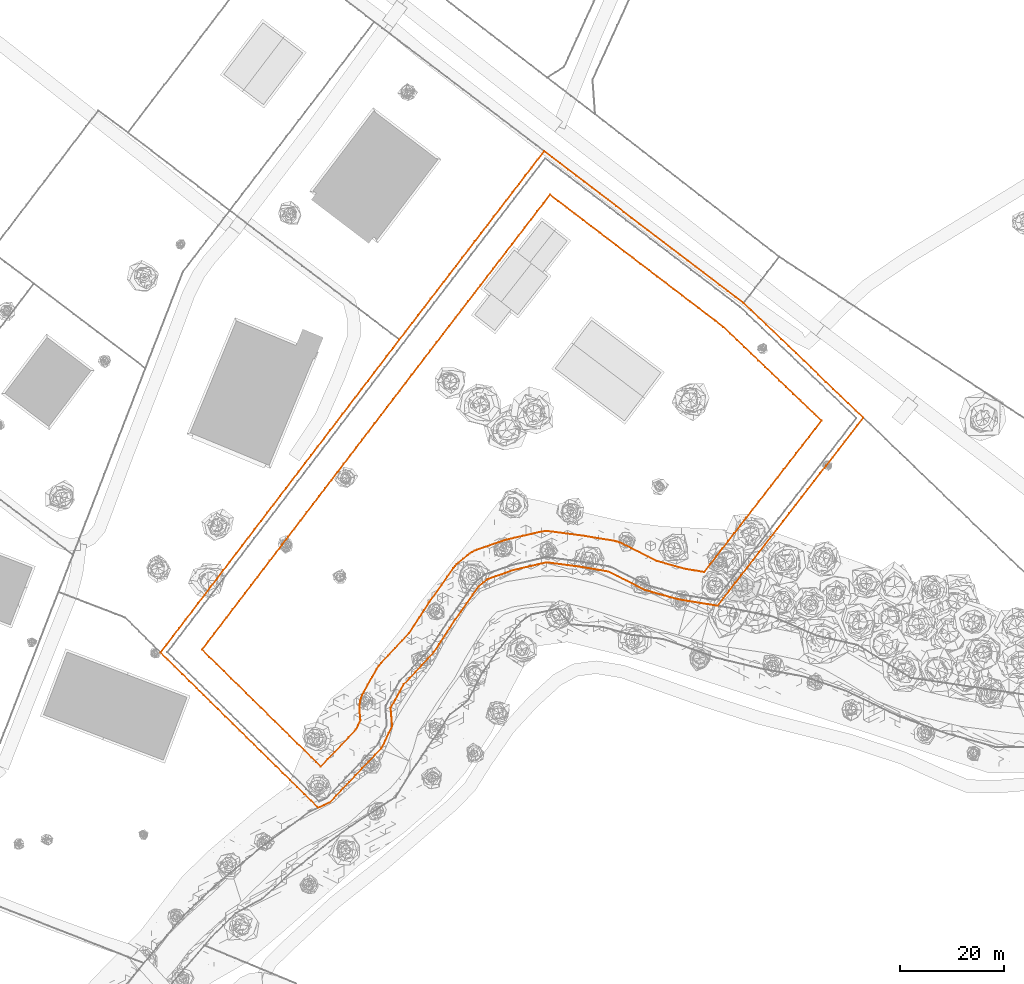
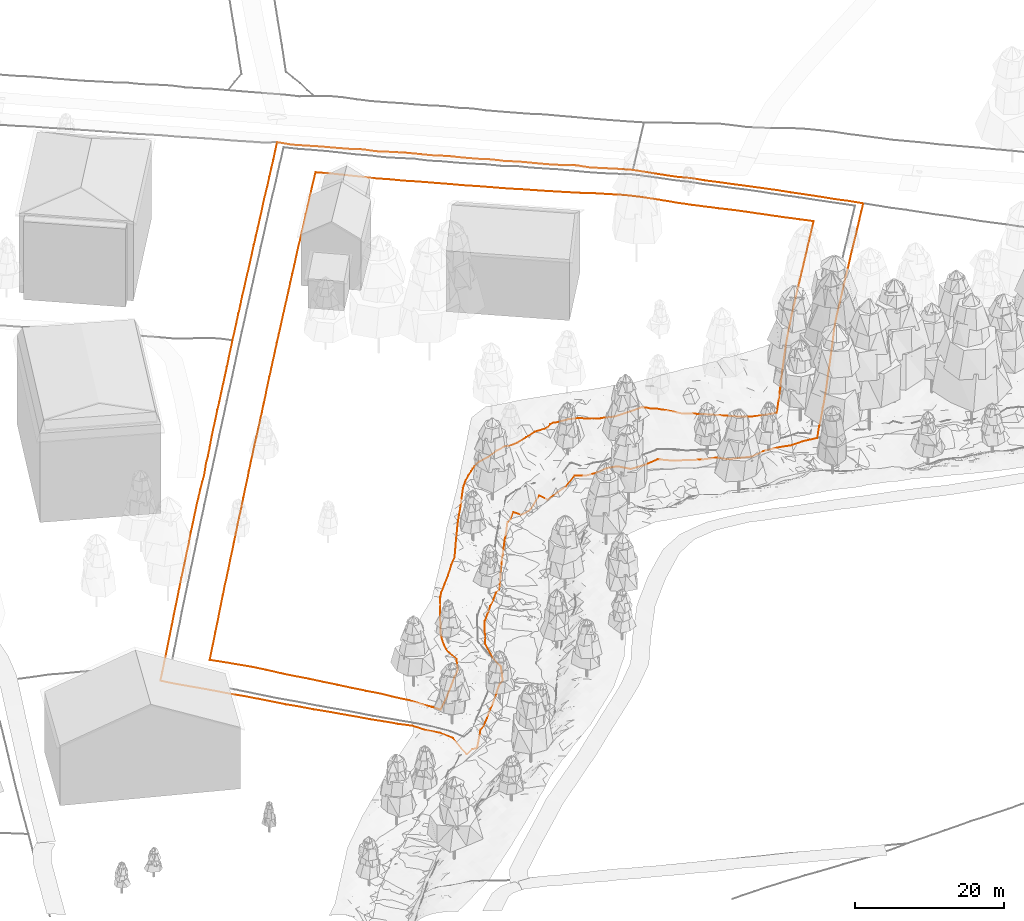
# Not in any storey, part 14 of 88: 2 geographic elements.
"""IFC4 model written with IfcOpenShell, lengths in metres."""

from ifc_helpers import new_model, entity, si_unit, origin_with_axes, place, context, subcontext, project, spatial, element, save


model = new_model("IFC4")

# Units and contexts
model_context = context("Model", 3, precision=1e-05, world=origin_with_axes())
body_context = subcontext(model_context, "Body", "Model", "MODEL_VIEW")
ifc_project = project(units=[si_unit("LENGTHUNIT", "METRE"), si_unit("AREAUNIT", "SQUARE_METRE"), si_unit("VOLUMEUNIT", "CUBIC_METRE"), si_unit("PLANEANGLEUNIT", "RADIAN")], contexts=[model_context])

# Sites
site_1_placement = place(None, origin_with_axes())
site_1 = spatial("IfcSite", under=ifc_project, at=site_1_placement, Name="CH907857693633", CompositionType="ELEMENT")
site_2_placement = place(None, origin_with_axes())
site_2 = spatial("IfcSite", under=site_1, at=site_2_placement, Name="Parcels", CompositionType="ELEMENT")

# Geographic element
geographic_element_1_placement = place(None, origin_with_axes())
element("IfcGeographicElement", 1, at=geographic_element_1_placement, inside=site_2, Name="Parcel_CH907857693633", ObjectType="PARCEL", PredefinedType="USERDEFINED", context=body_context, shape_type="Curve3D", body=[
    entity("IfcIndexedPolyCurve", entity("IfcCartesianPointList3D", [[186.954514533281, 126.636146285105, 8.74311523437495], [185.769047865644, 125.10627961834, 8.7719848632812], [184.583581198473, 123.576412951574, 8.77521972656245], [183.398114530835, 122.046546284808, 8.75922851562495], [182.212647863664, 120.516679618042, 8.70124511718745], [181.027181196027, 118.986812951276, 8.7741821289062], [179.841714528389, 117.45694628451, 8.84296874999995], [178.656247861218, 115.927079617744, 8.76826171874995], [177.47078119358, 114.397212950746, 8.7402465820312], [176.285314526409, 112.86734628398, 8.7750366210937], [175.099847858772, 111.337479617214, 8.75617675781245], [173.914381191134, 109.807612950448, 8.70808105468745], [172.728914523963, 108.277746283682, 8.6737182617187], [171.543447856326, 106.747879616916, 8.66047363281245], [170.357981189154, 105.21801295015, 8.62873535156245], [169.172514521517, 103.688146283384, 8.09907226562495], [168.032292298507, 102.216479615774, 6.92988281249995], [166.892070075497, 100.744812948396, 5.7978637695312], [165.751847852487, 99.273146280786, 5.1098754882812], [164.611625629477, 97.8014796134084, 3.99726562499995], [163.471403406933, 96.329812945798, 3.48774414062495], [162.331181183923, 94.8581462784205, 3.0072143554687], [161.190958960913, 93.3864796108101, 2.6038940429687], [160.050736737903, 91.9148129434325, 2.67280273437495], [158.910514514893, 90.4431462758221, 2.00043945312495], [157.00951451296, 90.7546462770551, 1.98005371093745], [155.108514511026, 91.0661462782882, 1.7456176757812], [153.207514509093, 91.3776462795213, 1.85981445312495], [151.30651450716, 91.6891462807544, 1.7606323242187], [149.724014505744, 92.1318962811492, 1.13007812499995], [148.141514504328, 92.5746462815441, 1.21381835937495], [146.559014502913, 93.0173962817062, 1.26191406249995], [144.976514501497, 93.4601462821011, 1.83454589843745], [143.209264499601, 94.3543962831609, 1.5665405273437], [141.442014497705, 95.2486462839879, 1.5672729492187], [139.674764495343, 96.1428962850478, 1.5522583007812], [137.907514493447, 97.0371462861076, 1.8573120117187], [135.999847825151, 97.3534796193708, 1.38142089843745], [134.092181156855, 97.6698129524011, 1.2193725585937], [132.184514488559, 97.9861462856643, 2.12971191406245], [130.650014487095, 98.188896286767, 2.24189453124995], [129.115514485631, 98.3916462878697, 1.85883789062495], [127.581014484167, 98.5943962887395, 1.82905273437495], [126.046514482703, 98.7971462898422, 2.2684448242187], [124.455514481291, 98.4296462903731, 1.23884277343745], [122.864514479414, 98.0621462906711, 0.968334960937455], [121.273514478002, 97.6946462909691, 0.673413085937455], [119.68251447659, 97.3271462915, 2.0927856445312], [118.009181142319, 96.7481462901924, 0.717297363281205], [116.335847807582, 96.1691462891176, 0.824108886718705], [114.662514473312, 95.5901462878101, 2.1939819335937], [113.821014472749, 94.8866462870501, 1.69367675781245], [112.979514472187, 94.1831462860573, 2.00898437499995], [111.836014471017, 92.5728962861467, 1.54743652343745], [110.692514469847, 90.9626462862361, 1.9008911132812], [109.549014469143, 89.3523962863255, 1.4798706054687], [108.405514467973, 87.7421462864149, 1.5462768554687], [107.390764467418, 86.1853962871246, 1.38422851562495], [106.376014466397, 84.6286462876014, 0.907177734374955], [105.361264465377, 83.0718962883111, 1.23322753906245], [104.346514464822, 81.5151462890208, 1.5810668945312], [103.188514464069, 80.2793462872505, 2.34052734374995], [102.030514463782, 79.0435462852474, 2.19465332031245], [100.87251446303, 77.8077462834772, 2.39252929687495], [99.714514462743, 76.5719462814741, 2.34125976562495], [98.5565144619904, 75.3361462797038, 2.20270996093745], [97.7151811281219, 73.8351462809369, 2.0771606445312], [96.8738477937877, 72.3341462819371, 1.8770874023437], [96.0325144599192, 70.8331462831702, 2.12324218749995], [96.1785144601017, 69.0736462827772, 0.893505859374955], [96.3245144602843, 67.3141462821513, 0.622265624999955], [95.660181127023, 65.9228129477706, 1.47285156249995], [94.9958477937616, 64.5314796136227, 1.40839843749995], [94.3315144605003, 63.1401462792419, 1.3875854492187], [93.0791394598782, 61.8262712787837, 2.0389526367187], [91.8267644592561, 60.5123962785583, 1.78889160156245], [90.574389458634, 59.1985212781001, 1.42377929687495], [89.3220144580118, 57.8846462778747, 1.55451660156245], [88.0696394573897, 56.5707712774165, 1.3802612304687], [86.8172644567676, 55.2568962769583, 1.37678222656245], [85.5648894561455, 53.9430212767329, 1.92292480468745], [84.3125144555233, 52.6291462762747, 0.207287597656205], [83.1925144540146, 52.1116462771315, 0.659558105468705], [82.0725144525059, 51.5941462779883, 0.550610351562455], [80.7192644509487, 52.9258962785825, 2.8881958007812], [79.3660144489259, 54.2576462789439, 3.4161499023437], [78.0127644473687, 55.5893962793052, 3.5207641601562], [76.6595144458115, 56.9211462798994, 3.8908813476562], [75.2756255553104, 58.2828129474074, 3.8681762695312], [73.8917366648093, 59.6444796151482, 3.92634277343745], [72.5078477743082, 61.0061462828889, 3.9375122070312], [71.1239588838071, 62.3678129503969, 4.0316284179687], [69.740069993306, 63.7294796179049, 4.0837524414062], [68.3561811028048, 65.0911462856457, 4.1617553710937], [66.9722922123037, 66.4528129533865, 4.18867187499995], [65.5884033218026, 67.8144796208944, 4.28437499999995], [64.2045144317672, 69.1761462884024, 4.34138183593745], [62.8206255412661, 70.5378129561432, 4.4569213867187], [61.4367366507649, 71.899479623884, 4.56403808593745], [60.0528477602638, 73.2611462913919, 4.6648071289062], [58.6689588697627, 74.6228129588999, 4.70612792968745], [57.2850699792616, 75.9844796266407, 4.8083618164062], [55.9011810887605, 77.3461462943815, 4.8762329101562], [54.5172921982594, 78.7078129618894, 4.93439941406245], [53.1334033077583, 80.0694796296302, 4.9958618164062], [51.7495144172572, 81.4311462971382, 5.1327026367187], [52.958672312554, 83.0153041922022, 5.21979980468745], [54.1678302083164, 84.599462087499, 5.37568359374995], [55.3769881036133, 86.183619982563, 5.45832519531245], [56.5861459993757, 87.7677778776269, 5.6212280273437], [57.7953038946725, 89.3519357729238, 5.80927734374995], [59.004461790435, 90.9360936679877, 5.9243286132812], [60.2136196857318, 92.5202515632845, 6.12800292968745], [61.4227775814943, 94.1044094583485, 6.28620605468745], [62.6319354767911, 95.6885673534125, 6.43916015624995], [63.8410933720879, 97.2727252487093, 6.6206176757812], [65.0502512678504, 98.8568831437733, 6.74006347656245], [66.2594091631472, 100.441041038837, 6.7816284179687], [67.4685670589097, 102.025198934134, 6.8862426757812], [68.6777249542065, 103.609356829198, 7.0095336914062], [69.886882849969, 105.193514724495, 7.0704467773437], [71.0960407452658, 106.777672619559, 7.35273437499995], [72.3051986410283, 108.361830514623, 7.33820800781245], [73.5143565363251, 109.94598840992, 7.47944335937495], [74.7235144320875, 111.530146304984, 7.57368164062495], [75.9326723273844, 113.114304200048, 7.4946411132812], [77.1418302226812, 114.698462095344, 7.4726684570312], [78.3509881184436, 116.282619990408, 7.3169067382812], [79.5601460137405, 117.866777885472, 6.97150878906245], [80.7693039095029, 119.450935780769, 7.5582397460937], [81.9784618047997, 121.035093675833, 7.41779785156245], [83.1876197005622, 122.61925157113, 7.5288208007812], [84.396777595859, 124.203409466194, 7.8371704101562], [85.6059354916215, 125.787567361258, 7.91584472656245], [86.8150933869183, 127.371725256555, 7.9558227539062], [88.0242512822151, 128.955883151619, 8.00544433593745], [89.2334091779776, 130.540041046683, 7.9322631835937], [90.4425670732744, 132.12419894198, 8.0481079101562], [91.6517249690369, 133.708356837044, 8.12861328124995], [92.8608828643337, 135.29251473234, 8.14631347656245], [94.0700407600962, 136.876672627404, 8.1995971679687], [95.279198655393, 138.460830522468, 8.26118164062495], [96.4883565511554, 140.044988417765, 8.4008911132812], [97.6975144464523, 141.629146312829, 8.42182617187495], [98.9087318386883, 143.206059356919, 8.51301269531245], [100.119949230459, 144.782972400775, 8.53913574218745], [101.331166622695, 146.359885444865, 8.6295288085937], [102.542384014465, 147.936798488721, 8.61311035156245], [103.753601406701, 149.513711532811, 8.8005493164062], [104.964818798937, 151.090624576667, 8.7374389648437], [106.176036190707, 152.667537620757, 8.7795532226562], [107.387253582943, 154.244450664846, 8.77900390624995], [108.598470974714, 155.821363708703, 8.78693847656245], [109.80968836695, 157.398276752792, 8.8571899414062], [111.020905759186, 158.975189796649, 8.9016235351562], [112.232123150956, 160.552102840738, 8.88007812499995], [113.443340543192, 162.129015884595, 8.8650024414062], [114.654557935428, 163.705928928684, 8.9420288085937], [115.865775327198, 165.282841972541, 8.9255493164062], [117.076992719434, 166.859755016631, 9.1132934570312], [118.288210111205, 168.43666806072, 9.0600708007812], [119.499427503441, 170.013581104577, 8.97871093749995], [120.710644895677, 171.590494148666, 8.9878051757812], [121.921862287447, 173.167407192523, 9.01520996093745], [123.133079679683, 174.744320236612, 8.9771850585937], [124.344297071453, 176.321233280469, 9.09968261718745], [125.555514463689, 177.898146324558, 9.18183593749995], [127.089554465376, 176.72902632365, 8.96467285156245], [128.623594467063, 175.559906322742, 8.9763305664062], [130.157634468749, 174.390786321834, 9.0083129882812], [131.691674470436, 173.221666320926, 8.9763305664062], [133.225714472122, 172.052546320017, 8.96235351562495], [134.759754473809, 170.883426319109, 9.04255371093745], [136.29379447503, 169.714306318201, 8.89545898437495], [137.827834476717, 168.545186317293, 8.96601562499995], [139.361874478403, 167.376066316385, 9.00666503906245], [140.89591448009, 166.206946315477, 8.9524047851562], [142.429954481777, 165.037826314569, 8.9038208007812], [143.963994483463, 163.86870631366, 8.9786499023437], [145.49803448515, 162.699586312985, 8.9063842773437], [147.032074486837, 161.530466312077, 8.88178710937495], [148.566114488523, 160.361346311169, 8.94953613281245], [150.10015449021, 159.192226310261, 8.8527954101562], [151.634194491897, 158.023106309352, 8.92316894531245], [153.168234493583, 156.853986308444, 8.87690429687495], [154.702274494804, 155.684866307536, 8.8332641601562], [156.236314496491, 154.515746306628, 8.88093261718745], [157.770354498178, 153.34662630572, 8.99860839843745], [159.304394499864, 152.177506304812, 8.8186157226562], [160.838434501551, 151.008386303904, 8.8775756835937], [162.372474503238, 149.839266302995, 8.9356811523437], [163.906514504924, 148.670146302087, 8.9259155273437], [165.347014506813, 147.29302130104, 8.8986938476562], [166.787514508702, 145.915896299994, 8.8291137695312], [168.228014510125, 144.538771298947, 8.80341796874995], [169.668514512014, 143.1616462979, 8.91791992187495], [171.109014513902, 141.784521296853, 8.8709838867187], [172.549514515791, 140.407396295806, 8.8941772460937], [173.990014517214, 139.03027129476, 8.8963745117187], [175.430514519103, 137.65314629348, 8.9168823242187], [176.871014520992, 136.276021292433, 8.9189575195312], [178.31151452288, 134.898896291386, 8.92194824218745], [179.752014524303, 133.52177129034, 8.88618164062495], [181.192514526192, 132.144646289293, 8.8645141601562], [182.633014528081, 130.767521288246, 8.83918457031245], [184.073514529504, 129.390396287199, 8.7749145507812], [185.514014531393, 128.013271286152, 8.79328613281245], [186.954514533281, 126.636146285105, 8.74311523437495]]), None, False),
])

# Site
site_3_placement = place(None, origin_with_axes())
site_3 = spatial("IfcSite", under=site_1, at=site_3_placement, Name="Setbacks", CompositionType="ELEMENT")

# Geographic element
geographic_element_2_placement = place(None, origin_with_axes())
element("IfcGeographicElement", 2, at=geographic_element_2_placement, inside=site_3, Name="Limite de construction à 6.0m de la limite de propriété", ObjectType="SETBACK", PredefinedType="USERDEFINED", context=body_context, shape_type="Curve3D", body=[
    entity("IfcIndexedPolyCurve", entity("IfcCartesianPointList3D", [[82.5825554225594, 59.510354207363, 2.89298095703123], [81.7253014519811, 60.3539884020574, 3.14725341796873], [80.8680474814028, 61.1976225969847, 3.29959716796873], [79.4588032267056, 62.5842374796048, 3.66922607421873], [78.0495589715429, 63.970852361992, 3.82321777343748], [76.6403147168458, 65.3574672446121, 4.06046142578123], [75.231070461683, 66.7440821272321, 4.15762939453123], [73.8218262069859, 68.1306970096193, 4.29349365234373], [72.4125819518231, 69.5173118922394, 4.44980468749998], [71.003337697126, 70.9039267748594, 4.58774414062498], [69.5940934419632, 72.2905416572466, 4.74454345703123], [68.1848491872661, 73.6771565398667, 4.84378662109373], [66.7756049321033, 75.0637714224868, 4.96451416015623], [65.3663606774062, 76.450386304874, 5.17227783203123], [63.9571164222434, 77.837001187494, 5.30704345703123], [62.5478721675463, 79.2236160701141, 5.36075439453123], [61.1386279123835, 80.6102309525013, 5.40158691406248], [59.7293836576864, 81.9968458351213, 5.42850341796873], [60.9163845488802, 83.5519751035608, 5.59726562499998], [62.1033854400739, 85.1071043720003, 5.73471679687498], [63.2903863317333, 86.6622336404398, 5.84836425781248], [64.4773872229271, 88.2173629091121, 5.99326171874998], [65.6643881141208, 89.7724921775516, 6.17490234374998], [66.8513890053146, 91.3276214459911, 6.35635986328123], [68.038389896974, 92.8827507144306, 6.44272460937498], [69.2253907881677, 94.4378799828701, 6.64566650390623], [70.4123916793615, 95.9930092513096, 6.65653076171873], [71.5993925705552, 97.548138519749, 6.76614990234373], [72.786393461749, 99.1032677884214, 6.87204589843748], [73.9733943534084, 100.658397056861, 6.93637695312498], [75.1603952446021, 102.2135263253, 7.07687988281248], [76.3473961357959, 103.76865559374, 7.16507568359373], [77.5343970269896, 105.323784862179, 7.32193603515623], [78.721397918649, 106.878914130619, 7.33353271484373], [79.9083988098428, 108.434043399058, 7.40671386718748], [81.0953997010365, 109.989172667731, 7.55332031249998], [82.2824005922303, 111.54430193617, 7.63626708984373], [83.469401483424, 113.09943120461, 7.66934814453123], [84.6564023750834, 114.654560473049, 7.78989257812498], [85.8434032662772, 116.209689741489, 7.91104736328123], [87.0304041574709, 117.764819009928, 7.97086181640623], [88.2174050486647, 119.319948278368, 8.04831542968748], [89.4044059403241, 120.875077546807, 7.98947753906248], [90.5914068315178, 122.430206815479, 7.99033203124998], [91.7784077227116, 123.985336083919, 8.02713623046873], [92.9654086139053, 125.540465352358, 8.06864013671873], [94.1524095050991, 127.095594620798, 8.12290039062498], [95.3394103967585, 128.650723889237, 8.15109863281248], [96.5264112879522, 130.205853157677, 8.35739746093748], [97.713412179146, 131.760982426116, 8.33566894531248], [98.9004130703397, 133.316111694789, 8.37326660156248], [100.087413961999, 134.871240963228, 8.41702880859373], [101.274414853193, 136.426370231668, 8.45749511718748], [102.461415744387, 137.981499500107, 8.51920166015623], [103.671982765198, 139.557565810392, 8.52133789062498], [104.882549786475, 141.133632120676, 8.55930175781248], [106.093116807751, 142.709698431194, 8.62631835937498], [107.303683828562, 144.285764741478, 8.67178955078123], [108.514250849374, 145.861831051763, 8.69925537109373], [109.72481787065, 147.437897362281, 8.74564208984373], [110.935384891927, 149.013963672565, 8.77127685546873], [112.145951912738, 150.59002998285, 8.82388916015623], [113.35651893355, 152.166096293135, 8.83261718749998], [114.567085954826, 153.742162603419, 8.88571777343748], [115.777652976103, 155.318228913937, 8.97940673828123], [116.988219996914, 156.894295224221, 8.89737548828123], [118.198787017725, 158.470361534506, 8.91733398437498], [119.409354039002, 160.046427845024, 8.90305175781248], [120.619921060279, 161.622494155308, 8.95944824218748], [121.83048808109, 163.198560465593, 8.91501464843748], [123.041055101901, 164.774626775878, 9.01322021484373], [124.251622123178, 166.350693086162, 9.03116455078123], [125.462189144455, 167.92675939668, 8.99503173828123], [126.672756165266, 169.502825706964, 8.94461669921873], [128.259901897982, 168.293232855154, 8.93582763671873], [129.847047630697, 167.083640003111, 8.85434570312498], [131.434193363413, 165.874047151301, 8.78378906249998], [133.021339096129, 164.664454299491, 8.68057861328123], [134.608484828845, 163.454861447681, 8.68546142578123], [136.195630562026, 162.245268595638, 8.63529052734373], [137.782776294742, 161.035675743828, 8.66788330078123], [139.369922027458, 159.826082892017, 8.65054931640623], [140.957067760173, 158.616490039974, 8.64285888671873], [142.544213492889, 157.406897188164, 8.60648193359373], [144.131359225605, 156.197304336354, 8.63065185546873], [145.71850495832, 154.987711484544, 8.62583007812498], [147.305650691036, 153.778118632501, 8.60416259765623], [148.892796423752, 152.568525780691, 8.65714111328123], [150.479942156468, 151.358932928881, 8.66129150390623], [152.067087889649, 150.149340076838, 8.68509521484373], [153.654233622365, 148.939747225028, 8.72153320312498], [155.24137935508, 147.730154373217, 8.77860107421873], [156.828525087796, 146.520561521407, 8.87723388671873], [158.415670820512, 145.310968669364, 8.90781249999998], [160.002816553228, 144.101375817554, 8.95474853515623], [161.352559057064, 142.811015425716, 9.00534667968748], [162.702301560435, 141.520655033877, 8.99118652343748], [164.052044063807, 140.230294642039, 8.94724121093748], [165.401786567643, 138.9399342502, 8.88168945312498], [166.75152907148, 137.649573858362, 8.87979736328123], [168.101271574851, 136.359213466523, 8.90366210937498], [169.451014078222, 135.068853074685, 8.93338623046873], [170.800756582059, 133.778492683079, 8.98966064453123], [172.150499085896, 132.488132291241, 8.99167480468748], [173.500241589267, 131.197771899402, 8.97855224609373], [174.849984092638, 129.907411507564, 8.96951904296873], [176.199726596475, 128.617051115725, 8.96384277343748], [177.549469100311, 127.326690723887, 8.98319091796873], [178.899211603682, 126.036330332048, 9.00107421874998], [177.693423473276, 124.480238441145, 8.97501220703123], [176.487635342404, 122.924146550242, 8.95993652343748], [175.281847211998, 121.368054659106, 8.92276611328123], [174.076059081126, 119.811962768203, 8.91831054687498], [172.87027095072, 118.255870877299, 8.88443603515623], [171.664482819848, 116.699778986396, 8.88321533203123], [170.458694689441, 115.143687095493, 8.85013427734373], [169.252906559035, 113.58759520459, 8.83237304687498], [168.047118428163, 112.031503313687, 8.82120361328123], [166.841330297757, 110.475411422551, 8.78427734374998], [165.635542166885, 108.919319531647, 8.68332519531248], [164.429754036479, 107.363227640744, 8.52561035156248], [163.276280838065, 105.874458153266, 8.26059570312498], [162.122807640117, 104.385688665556, 7.93619384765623], [160.969334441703, 102.896919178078, 6.98093261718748], [159.815861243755, 101.4081496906, 5.97952880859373], [158.662388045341, 99.9193802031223, 4.80679931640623], [157.508914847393, 98.4306107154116, 3.71091308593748], [156.355441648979, 96.9418412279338, 3.06845703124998], [154.479657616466, 97.2492093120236, 3.17233886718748], [152.603873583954, 97.5565773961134, 3.38242187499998], [150.789295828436, 98.064257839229, 3.76218261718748], [148.974718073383, 98.5719382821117, 4.24191894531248], [147.160140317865, 99.0796187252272, 4.73221435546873], [145.524233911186, 99.9074072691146, 4.91275634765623], [143.888327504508, 100.735195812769, 5.01358642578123], [142.252421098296, 101.562984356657, 5.57687988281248], [140.616514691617, 102.390772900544, 6.02091064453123], [140.060823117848, 102.637437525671, 6.01077880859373], [139.483022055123, 102.826600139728, 6.31180419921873], [138.889044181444, 102.956318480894, 6.45346679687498], [136.981377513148, 103.272651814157, 6.13559570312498], [135.073710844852, 103.588985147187, 5.88077392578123], [133.166044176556, 103.905318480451, 6.12528076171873], [132.970450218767, 103.934448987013, 6.12528076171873], [131.435950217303, 104.137198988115, 6.48264160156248], [129.901450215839, 104.339948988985, 6.99313964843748], [128.366950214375, 104.542698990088, 7.20792236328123], [126.832450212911, 104.745448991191, 7.14859619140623], [126.297084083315, 104.791911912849, 7.24973144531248], [125.759707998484, 104.790287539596, 7.18124999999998], [125.224632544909, 104.740588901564, 6.79971923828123], [124.696149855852, 104.643214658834, 6.86874999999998], [123.10514985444, 104.275714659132, 7.20456542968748], [121.514149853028, 103.908214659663, 7.04990234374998], [119.923149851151, 103.540714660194, 6.93753662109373], [118.332149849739, 103.173214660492, 7.16428222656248], [117.720549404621, 102.997304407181, 7.49838867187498], [116.04721607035, 102.418304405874, 7.64621582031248], [114.373882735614, 101.839304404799, 7.56607666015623], [112.700549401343, 101.260304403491, 7.73367919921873], [112.194498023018, 101.059048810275, 7.70523681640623], [111.708779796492, 100.812736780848, 7.61258544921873], [111.247396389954, 100.523397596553, 7.52664794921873], [110.814148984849, 100.193415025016, 7.50992431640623], [109.972648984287, 99.4899150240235, 7.49082031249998], [109.131148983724, 98.7864150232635, 7.35452880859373], [108.751419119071, 98.4402826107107, 7.24533691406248], [108.402695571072, 98.0629309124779, 7.18674316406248], [108.087535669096, 97.6571271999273, 7.10190429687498], [106.944035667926, 96.0468772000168, 7.04550781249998], [105.800535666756, 94.4366272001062, 6.63510742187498], [104.657035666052, 92.8263772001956, 6.86429443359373], [103.513535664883, 91.216127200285, 6.62058105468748], [103.379080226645, 91.0185709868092, 6.62058105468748], [102.43628545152, 89.5722090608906, 6.63004150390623], [101.493490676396, 88.125847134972, 6.66440429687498], [100.550695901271, 86.6794852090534, 6.52011718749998], [99.6079011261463, 85.2331232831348, 6.39194335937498], [98.2505000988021, 83.7845255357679, 6.42514648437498], [96.893099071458, 82.3359277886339, 6.02292480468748], [95.5356980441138, 80.887330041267, 6.00058593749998], [94.1782970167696, 79.4387322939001, 5.93796386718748], [93.7150556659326, 78.8801943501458, 5.73587646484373], [93.3226283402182, 78.2698190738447, 5.62760009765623], [92.4812950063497, 76.7688190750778, 5.48666992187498], [91.6399616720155, 75.267819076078, 4.98416748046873], [90.798628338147, 73.7668190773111, 4.68668212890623], [90.534429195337, 73.2354490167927, 4.36826171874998], [90.3240128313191, 72.6805794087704, 4.13504638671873], [90.1694375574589, 72.1076380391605, 3.87344970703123], [90.0722154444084, 71.5222294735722, 3.59702148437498], [90.0332975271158, 70.9300802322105, 3.30313720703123], [90.0530645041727, 70.3369827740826, 3.16562499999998], [90.210878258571, 68.4351108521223, 3.13974609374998], [89.7699045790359, 67.5115663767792, 3.00363769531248], [89.3289308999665, 66.5880219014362, 2.73825683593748], [87.9796558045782, 65.1724883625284, 2.81534423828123], [86.6303807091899, 63.7569548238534, 2.67770996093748], [85.281105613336, 62.3414212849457, 2.62332763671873], [83.9318305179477, 60.9258877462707, 2.70676269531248], [82.5825554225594, 59.510354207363, 2.89298095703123]]), None, False),
])

save(model, "model.ifc")
